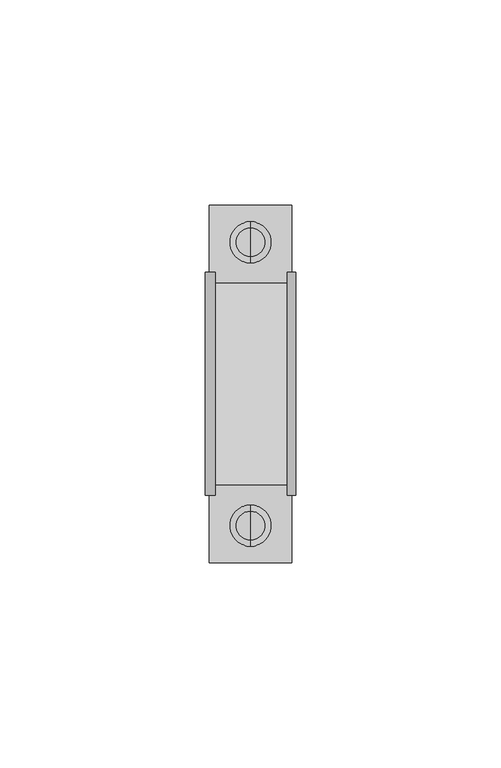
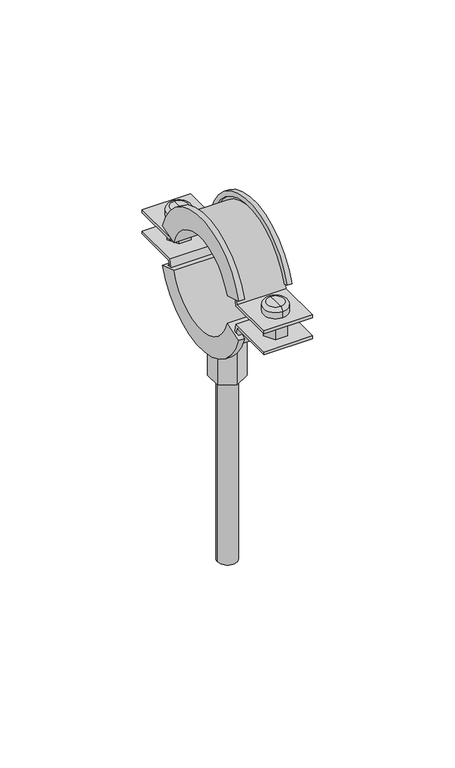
"""IFC4 building model written with IfcOpenShell, lengths in millimetres: pipe fitting geometry, NIRON abrazadera isofonica lisa : Estándard."""

from ifc_helpers import new_model, si_unit, point, frame, origin, origin_2d, place, context, project, spatial, polyline, circle_curve, ellipse_curve, trimmed, segment, composite_curve, outline, extrude, source, transform, mapped, element, save
from ifc_brep_helpers import plane_surface, cylinder_surface, revolved_surface, advanced_brep


def pipe_fitting_90591fc5(model_context):
    return source(origin(), model_context, "Body", "SolidModel", [
        advanced_brep(
        [(0.0, 30.5, -7.8), (0.0, 30.5, -4.8), (0.0, 38.5, -4.8), (0.0, 38.5, -7.8), (0.0, 34.5, -7.8), (0.0, 34.5, -4.8)],
        [
            (0, 1),
            (1, 2, circle_curve(frame((0.0, 34.5, -4.8), z_axis=(0.0, 0.0, -1.0), x_axis=(0.0, 1.0, 0.0)), 4.0)),
            (2, 3),
            (3, 0, circle_curve(frame((0.0, 34.5, -7.8), z_axis=(0.0, 0.0, 1.0), x_axis=(0.0, 1.0, 0.0)), 4.0)),
            (2, 1, circle_curve(frame((0.0, 34.5, -4.8), z_axis=(0.0, 0.0, -1.0), x_axis=(0.0, 1.0, 0.0)), 4.0)),
            (0, 3, circle_curve(frame((0.0, 34.5, -7.8), z_axis=(0.0, 0.0, 1.0), x_axis=(0.0, 1.0, 0.0)), 4.0)),
            (4, 0),
            (3, 4),
            (1, 5),
            (5, 2),
        ],
        [
            cylinder_surface(frame((0.0, 34.5, -110.5332781), z_axis=(0.0, 0.0, -1.0), x_axis=(0.0, 1.0, 0.0)), 4.0),
            plane_surface(frame((0.0, 34.5, -7.8), z_axis=(0.0, 0.0, -1.0), x_axis=(0.0, 1.0, 0.0))),
            plane_surface(frame((0.0, 34.5, -4.8), z_axis=(0.0, 0.0, 1.0), x_axis=(0.0, 1.0, 0.0))),
        ],
        [
            (0, [[1, 2, 3, 4]]),
            (0, [[-3, 5, -1, 6]]),
            (1, [[7, -4, 8]]),
            (1, [[-8, -6, -7]]),
            (2, [[9, 10, -2]]),
            (2, [[-10, -9, -5]]),
        ],
    ),
        advanced_brep(
        [(0.0, 34.5, 4.8), (0.0, 29.5, 4.8), (0.0, 39.5, 4.8), (0.0, 29.5, 7.3), (0.0, 39.5, 7.3), (0.0, 31.0, 8.8), (0.0, 34.5, 8.8), (0.0, 38.0, 8.8)],
        [
            (0, 1),
            (1, 2, circle_curve(frame((0.0, 34.5, 4.8), z_axis=(0.0, 0.0, -1.0), x_axis=(0.0, 1.0, 0.0)), 5.0)),
            (2, 0),
            (2, 1, circle_curve(frame((0.0, 34.5, 4.8), z_axis=(0.0, 0.0, -1.0), x_axis=(0.0, 1.0, 0.0)), 5.0)),
            (1, 3),
            (3, 4, circle_curve(frame((0.0, 34.5, 7.3), z_axis=(0.0, 0.0, -1.0), x_axis=(0.0, 1.0, 0.0)), 5.0)),
            (4, 2),
            (4, 3, circle_curve(frame((0.0, 34.5, 7.3), z_axis=(0.0, 0.0, -1.0), x_axis=(0.0, 1.0, 0.0)), 5.0)),
            (5, 6),
            (6, 7),
            (7, 5, circle_curve(frame((0.0, 34.5, 8.8), z_axis=(0.0, 0.0, 1.0), x_axis=(0.0, 1.0, 0.0)), 3.5)),
            (5, 7, circle_curve(frame((0.0, 34.5, 8.8), z_axis=(0.0, 0.0, 1.0), x_axis=(0.0, 1.0, 0.0)), 3.5)),
            (3, 5, circle_curve(frame((0.0, 31.0, 7.3), z_axis=(-1.0, 0.0, 0.0), x_axis=(0.0, 1.0, 0.0)), 1.5)),
            (7, 4, circle_curve(frame((0.0, 38.0, 7.3), z_axis=(-1.0, 0.0, 0.0), x_axis=(0.0, -1.0, 0.0)), 1.5)),
        ],
        [
            plane_surface(frame((0.0, 34.5, 4.8), z_axis=(0.0, 0.0, -1.0), x_axis=(0.0, 1.0, 0.0))),
            cylinder_surface(frame((0.0, 34.5, 9.8), z_axis=(0.0, 0.0, -1.0), x_axis=(0.0, 1.0, 0.0)), 5.0),
            plane_surface(frame((0.0, 34.5, 8.8), z_axis=(0.0, 0.0, 1.0), x_axis=(0.0, 1.0, 0.0))),
            revolved_surface(trimmed(ellipse_curve(frame((0.0, 38.0, 7.3), z_axis=(-1.0, 0.0, 0.0), x_axis=(0.0, -1.0, 0.0)), 1.5, 1.5), [point((0.0, 38.0, 8.8))], [point((0.0, 39.5, 7.3))], True, "CARTESIAN"), (0.0, 34.5, 9.8), (0.0, 0.0, -1.0)),
        ],
        [
            (0, [[1, 2, 3]]),
            (0, [[-3, 4, -1]]),
            (1, [[5, 6, 7, -2]]),
            (1, [[-7, 8, -5, -4]]),
            (2, [[9, 10, 11]]),
            (2, [[-10, -9, 12]]),
            (3, [[13, -11, 14, -6]]),
            (3, [[-14, -12, -13, -8]]),
        ],
    ),
        advanced_brep(
        [(0.0, -30.5, -7.4875), (0.0, -38.5, -7.4875), (0.0, -38.5, -4.4875), (0.0, -30.5, -4.4875), (0.0, -34.5, -7.4875), (0.0, -34.5, -4.4875)],
        [
            (0, 1, circle_curve(frame((0.0, -34.5, -7.4875), z_axis=(0.0, 0.0, 1.0), x_axis=(0.0, -1.0, 0.0)), 4.0)),
            (1, 2),
            (2, 3, circle_curve(frame((0.0, -34.5, -4.4875), z_axis=(0.0, 0.0, -1.0), x_axis=(0.0, -1.0, 0.0)), 4.0)),
            (3, 0),
            (1, 0, circle_curve(frame((0.0, -34.5, -7.4875), z_axis=(0.0, 0.0, 1.0), x_axis=(0.0, -1.0, 0.0)), 4.0)),
            (3, 2, circle_curve(frame((0.0, -34.5, -4.4875), z_axis=(0.0, 0.0, -1.0), x_axis=(0.0, -1.0, 0.0)), 4.0)),
            (4, 1),
            (0, 4),
            (2, 5),
            (5, 3),
        ],
        [
            cylinder_surface(frame((0.0, -34.5, -110.2207781), z_axis=(0.0, 0.0, -1.0), x_axis=(0.0, -1.0, 0.0)), 4.0),
            plane_surface(frame((0.0, -34.5, -7.4875), z_axis=(0.0, 0.0, -1.0), x_axis=(0.0, -1.0, 0.0))),
            plane_surface(frame((0.0, -34.5, -4.4875), z_axis=(0.0, 0.0, 1.0), x_axis=(0.0, -1.0, 0.0))),
        ],
        [
            (0, [[1, 2, 3, 4]]),
            (0, [[5, -4, 6, -2]]),
            (1, [[7, -1, 8]]),
            (1, [[-8, -5, -7]]),
            (2, [[-3, 9, 10]]),
            (2, [[-6, -10, -9]]),
        ],
    ),
        advanced_brep(
        [(0.0, -34.5, 5.1125), (0.0, -39.5, 5.1125), (0.0, -29.5, 5.1125), (0.0, -39.5, 7.6125), (0.0, -29.5, 7.6125), (0.0, -31.0, 9.1125), (0.0, -38.0, 9.1125), (0.0, -34.5, 9.1125)],
        [
            (0, 1),
            (1, 2, circle_curve(frame((0.0, -34.5, 5.1125), z_axis=(0.0, 0.0, -1.0), x_axis=(0.0, -1.0, 0.0)), 5.0)),
            (2, 0),
            (2, 1, circle_curve(frame((0.0, -34.5, 5.1125), z_axis=(0.0, 0.0, -1.0), x_axis=(0.0, -1.0, 0.0)), 5.0)),
            (1, 3),
            (3, 4, circle_curve(frame((0.0, -34.5, 7.6125), z_axis=(0.0, 0.0, -1.0), x_axis=(0.0, -1.0, 0.0)), 5.0)),
            (4, 2),
            (4, 3, circle_curve(frame((0.0, -34.5, 7.6125), z_axis=(0.0, 0.0, -1.0), x_axis=(0.0, -1.0, 0.0)), 5.0)),
            (5, 6, circle_curve(frame((0.0, -34.5, 9.1125), z_axis=(0.0, 0.0, 1.0), x_axis=(0.0, -1.0, 0.0)), 3.5)),
            (6, 7),
            (7, 5),
            (6, 5, circle_curve(frame((0.0, -34.5, 9.1125), z_axis=(0.0, 0.0, 1.0), x_axis=(0.0, -1.0, 0.0)), 3.5)),
            (3, 6, circle_curve(frame((0.0, -38.0, 7.6125), z_axis=(-1.0, 0.0, 0.0), x_axis=(0.0, 1.0, 0.0)), 1.5)),
            (5, 4, circle_curve(frame((0.0, -31.0, 7.6125), z_axis=(-1.0, 0.0, 0.0), x_axis=(0.0, -1.0, 0.0)), 1.5)),
        ],
        [
            plane_surface(frame((0.0, -34.5, 5.1125), z_axis=(0.0, 0.0, -1.0), x_axis=(0.0, -1.0, 0.0))),
            cylinder_surface(frame((0.0, -34.5, 10.1125), z_axis=(0.0, 0.0, -1.0), x_axis=(0.0, -1.0, 0.0)), 5.0),
            plane_surface(frame((0.0, -34.5, 9.1125), z_axis=(0.0, 0.0, 1.0), x_axis=(0.0, -1.0, 0.0))),
            revolved_surface(trimmed(ellipse_curve(frame((0.0, -38.0, 7.6125), z_axis=(1.0, 0.0, 0.0), x_axis=(0.0, 1.0, 0.0)), 1.5, 1.5), [point((0.0, -38.0, 9.1125))], [point((0.0, -39.5, 7.6125))], True, "CARTESIAN"), (0.0, -34.5, 10.1125), (0.0, 0.0, -1.0)),
        ],
        [
            (0, [[1, 2, 3]]),
            (0, [[-3, 4, -1]]),
            (1, [[-2, 5, 6, 7]]),
            (1, [[-4, -7, 8, -5]]),
            (2, [[9, 10, 11]]),
            (2, [[12, -11, -10]]),
            (3, [[-6, 13, -9, 14]]),
            (3, [[-8, -14, -12, -13]]),
        ],
    ),
        extrude(outline(polyline([(2.5, 30.169873), (-2.5, 30.169873), (-5.0, 34.5), (-2.5, 38.830127), (2.5, 38.830127), (5.0, 34.5), (2.5, 30.169873)])), frame((0.0, 0.0, -4.0), z_axis=(0.0, 0.0, 1.0), x_axis=(1.0, 0.0, 0.0)), (0.0, 0.0, 1.0), 8.0),
        extrude(outline(polyline([(2.5, -30.169873), (5.0, -34.5), (2.5, -38.830127), (-2.5, -38.830127), (-5.0, -34.5), (-2.5, -30.169873), (2.5, -30.169873)])), frame((0.0, 0.0, -4.0), z_axis=(0.0, 0.0, 1.0), x_axis=(1.0, 0.0, 0.0)), (0.0, 0.0, 1.0), 8.0),
        advanced_brep(
        [(11.0, -19.0934907, 6.0), (11.0, -27.1604905, 8.5151568), (9.0, -27.1604905, 8.5151568), (9.0, -25.2511415, 7.9198534), (10.0, -25.2511415, 7.9198534), (10.0, -23.3417924, 7.32455), (-10.0, -23.3417924, 7.32455), (-10.0, -25.2511415, 7.9198534), (-8.5466338, -25.2511415, 7.9198534), (-8.5466338, -27.1604905, 8.5151568), (-11.0, -27.1604905, 8.5151568), (-11.0, -19.0934907, 6.0), (11.0, 19.0934907, 6.0), (-11.0, 19.0934907, 6.0), (-11.0, 27.1604905, 8.5151568), (-8.5466338, 27.1604905, 8.5151568), (-8.5466338, 25.2511415, 7.9198534), (-10.0, 25.2511415, 7.9198534), (-10.0, 23.3417924, 7.32455), (10.0, 23.3417924, 7.32455), (10.0, 25.2511415, 7.9198534), (9.0, 25.2511415, 7.9198534), (9.0, 27.1604905, 8.5151568), (11.0, 27.1604905, 8.5151568)],
        [
            (0, 1),
            (1, 2),
            (2, 3),
            (3, 4),
            (4, 5),
            (5, 6),
            (6, 7),
            (7, 8),
            (8, 9),
            (9, 10),
            (10, 11),
            (11, 0),
            (12, 13),
            (13, 14),
            (14, 15),
            (15, 16),
            (16, 17),
            (17, 18),
            (18, 19),
            (19, 20),
            (20, 21),
            (21, 22),
            (22, 23),
            (23, 12),
            (12, 0, circle_curve(frame((11.0, 0.0, 0.0469661), z_axis=(1.0, 0.0, 0.0), x_axis=(0.0, -0.9546745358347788, 0.297651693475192)), 20.0)),
            (11, 13, circle_curve(frame((-11.0, 0.0, 0.0469661), z_axis=(-1.0, 0.0, 0.0), x_axis=(0.0, -0.9546745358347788, 0.297651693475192)), 20.0)),
            (10, 14, circle_curve(frame((-11.0, 0.0, 0.0469661), z_axis=(-1.0, 0.0, 0.0), x_axis=(0.0, -0.9546745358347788, 0.297651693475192)), 28.45)),
            (9, 15, circle_curve(frame((-8.5466338, 0.0, 0.0469661), z_axis=(-1.0, 0.0, 0.0), x_axis=(0.0, -0.9546745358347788, 0.297651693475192)), 28.45)),
            (8, 16, circle_curve(frame((-8.5466338, 0.0, 0.0469661), z_axis=(-1.0, 0.0, 0.0), x_axis=(0.0, -0.9546745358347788, 0.297651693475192)), 26.45)),
            (7, 17, circle_curve(frame((-10.0, 0.0, 0.0469661), z_axis=(-1.0, 0.0, 0.0), x_axis=(0.0, -0.9546745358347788, 0.297651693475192)), 26.45)),
            (6, 18, circle_curve(frame((-10.0, 0.0, 0.0469661), z_axis=(-1.0, 0.0, 0.0), x_axis=(0.0, -0.9546745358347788, 0.297651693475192)), 24.45)),
            (5, 19, circle_curve(frame((10.0, 0.0, 0.0469661), z_axis=(-1.0, 0.0, 0.0), x_axis=(0.0, -0.9546745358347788, 0.297651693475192)), 24.45)),
            (4, 20, circle_curve(frame((10.0, 0.0, 0.0469661), z_axis=(-1.0, 0.0, 0.0), x_axis=(0.0, -0.9546745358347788, 0.297651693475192)), 26.45)),
            (3, 21, circle_curve(frame((9.0, 0.0, 0.0469661), z_axis=(-1.0, 0.0, 0.0), x_axis=(0.0, -0.9546745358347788, 0.297651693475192)), 26.45)),
            (2, 22, circle_curve(frame((9.0, 0.0, 0.0469661), z_axis=(-1.0, 0.0, 0.0), x_axis=(0.0, -0.9546745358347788, 0.297651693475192)), 28.45)),
            (1, 23, circle_curve(frame((11.0, 0.0, 0.0469661), z_axis=(-1.0, 0.0, 0.0), x_axis=(0.0, -0.9546745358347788, 0.297651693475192)), 28.45)),
        ],
        [
            plane_surface(frame((0.0, -19.0934907, 6.0), z_axis=(0.0, -0.297651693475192, -0.9546745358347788), x_axis=(1.0, 0.0, 0.0))),
            plane_surface(frame((0.0, 19.0934907, 6.0), z_axis=(0.0, 0.29765169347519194, -0.9546745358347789), x_axis=(1.0, 0.0, 0.0))),
            revolved_surface(polyline([(-11.0, -19.093490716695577, 5.99999996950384), (11.0, -19.093490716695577, 5.99999996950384)]), (0.0, 0.0, 0.0469661), (-1.0, 0.0, 0.0)),
            plane_surface(frame((-11.0, 0.0, 0.0469661), z_axis=(-1.0, 0.0, 0.0), x_axis=(0.0, -0.9546745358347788, 0.297651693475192))),
            cylinder_surface(frame((0.0, 0.0, 0.0469661), z_axis=(-1.0, 0.0, 0.0), x_axis=(0.0, -0.9546745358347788, 0.297651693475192)), 28.45),
            plane_surface(frame((-8.5466338, 0.0, 0.0469661), z_axis=(1.0, 0.0, 0.0), x_axis=(0.0, -0.9546745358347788, 0.297651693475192))),
            revolved_surface(polyline([(-10.0, -25.251141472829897, 7.919853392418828), (-8.5466338, -25.251141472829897, 7.919853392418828)]), (0.0, 0.0, 0.0469661), (-1.0, 0.0, 0.0)),
            plane_surface(frame((-10.0, 0.0, 0.0469661), z_axis=(1.0, 0.0, 0.0), x_axis=(0.0, -0.9546745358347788, 0.297651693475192))),
            cylinder_surface(frame((0.0, 0.0, 0.0469661), z_axis=(-1.0, 0.0, 0.0), x_axis=(0.0, -0.9546745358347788, 0.297651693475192)), 24.45),
            plane_surface(frame((10.0, 0.0, 0.0469661), z_axis=(-1.0, 0.0, 0.0), x_axis=(0.0, -0.9546745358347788, 0.297651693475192))),
            revolved_surface(polyline([(9.0, -25.251141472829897, 7.919853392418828), (10.0, -25.251141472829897, 7.919853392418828)]), (0.0, 0.0, 0.0469661), (-1.0, 0.0, 0.0)),
            plane_surface(frame((9.0, 0.0, 0.0469661), z_axis=(-1.0, 0.0, 0.0), x_axis=(0.0, -0.9546745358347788, 0.297651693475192))),
            plane_surface(frame((11.0, 0.0, 0.0469661), z_axis=(1.0, 0.0, 0.0), x_axis=(0.0, -0.9546745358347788, 0.297651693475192))),
        ],
        [
            (0, [[1, 2, 3, 4, 5, 6, 7, 8, 9, 10, 11, 12]]),
            (1, [[13, 14, 15, 16, 17, 18, 19, 20, 21, 22, 23, 24]]),
            (2, [[25, -12, 26, -13]]),
            (3, [[-26, -11, 27, -14]]),
            (4, [[-27, -10, 28, -15]]),
            (5, [[-28, -9, 29, -16]]),
            (6, [[-29, -8, 30, -17]]),
            (7, [[-30, -7, 31, -18]]),
            (8, [[-31, -6, 32, -19]]),
            (9, [[-32, -5, 33, -20]]),
            (10, [[-33, -4, 34, -21]]),
            (11, [[-34, -3, 35, -22]]),
            (4, [[-35, -2, 36, -23]]),
            (12, [[-36, -1, -25, -24]]),
        ],
    ),
        extrude(outline(composite_curve([segment(trimmed(circle_curve(origin_2d(), 24.0), [point((-23.6643191, -4.0))], [point((23.6643191, -4.0))], True, "CARTESIAN"), True, "CONTINUOUS"), segment(polyline([(23.6643191, -4.0), (43.5, -4.0), (43.5, -5.25), (24.6981781, -5.25)]), True, "CONTINUOUS"), segment(trimmed(circle_curve(origin_2d(), 25.25), [point((24.6981781, -5.25))], [point((-24.6981781, -5.25))], False, "CARTESIAN"), True, "CONTINUOUS"), segment(polyline([(-24.6981781, -5.25), (-43.5, -5.25), (-43.5, -4.0), (-23.6643191, -4.0)]), True, "CONTINUOUS")], self_intersect=False)), frame((-10.0, 0.0, 0.0), z_axis=(1.0, 0.0, 0.0), x_axis=(0.0, 1.0, 0.0)), (0.0, 0.0, 1.0), 20.0),
        advanced_brep(
        [(11.0, -19.078784, -6.0), (-11.0, -19.078784, -6.0), (-11.0, -27.1395703, -8.535), (-8.5466338, -27.1395703, -8.535), (-8.5466338, -25.2316919, -7.935), (-10.0, -25.2316919, -7.935), (-10.0, -23.3238135, -7.335), (10.0, -23.3238135, -7.335), (10.0, -25.2316919, -7.935), (9.0, -25.2316919, -7.935), (9.0, -27.1395703, -8.535), (11.0, -27.1395703, -8.535), (11.0, 19.078784, -6.0), (11.0, 27.1395703, -8.535), (9.0, 27.1395703, -8.535), (9.0, 25.2316919, -7.935), (10.0, 25.2316919, -7.935), (10.0, 23.3238135, -7.335), (-10.0, 23.3238135, -7.335), (-10.0, 25.2316919, -7.935), (-8.5466338, 25.2316919, -7.935), (-8.5466338, 27.1395703, -8.535), (-11.0, 27.1395703, -8.535), (-11.0, 19.078784, -6.0)],
        [
            (0, 1),
            (1, 2),
            (2, 3),
            (3, 4),
            (4, 5),
            (5, 6),
            (6, 7),
            (7, 8),
            (8, 9),
            (9, 10),
            (10, 11),
            (11, 0),
            (12, 13),
            (13, 14),
            (14, 15),
            (15, 16),
            (16, 17),
            (17, 18),
            (18, 19),
            (19, 20),
            (20, 21),
            (21, 22),
            (22, 23),
            (23, 12),
            (23, 1, circle_curve(frame((-11.0, 0.0, 0.0), z_axis=(-1.0, 0.0, 0.0), x_axis=(0.0, -0.9539392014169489, -0.2999999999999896)), 20.0)),
            (0, 12, circle_curve(frame((11.0, 0.0, 0.0), z_axis=(1.0, 0.0, 0.0), x_axis=(0.0, -0.9539392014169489, -0.2999999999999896)), 20.0)),
            (22, 2, circle_curve(frame((-11.0, 0.0, 0.0), z_axis=(-1.0, 0.0, 0.0), x_axis=(0.0, -0.9539392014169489, -0.2999999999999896)), 28.45)),
            (21, 3, circle_curve(frame((-8.5466338, 0.0, 0.0), z_axis=(-1.0, 0.0, 0.0), x_axis=(0.0, -0.9539392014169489, -0.2999999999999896)), 28.45)),
            (20, 4, circle_curve(frame((-8.5466338, 0.0, 0.0), z_axis=(-1.0, 0.0, 0.0), x_axis=(0.0, -0.9539392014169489, -0.2999999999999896)), 26.45)),
            (19, 5, circle_curve(frame((-10.0, 0.0, 0.0), z_axis=(-1.0, 0.0, 0.0), x_axis=(0.0, -0.9539392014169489, -0.2999999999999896)), 26.45)),
            (18, 6, circle_curve(frame((-10.0, 0.0, 0.0), z_axis=(-1.0, 0.0, 0.0), x_axis=(0.0, -0.9539392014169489, -0.2999999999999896)), 24.45)),
            (17, 7, circle_curve(frame((10.0, 0.0, 0.0), z_axis=(-1.0, 0.0, 0.0), x_axis=(0.0, -0.9539392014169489, -0.2999999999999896)), 24.45)),
            (16, 8, circle_curve(frame((10.0, 0.0, 0.0), z_axis=(-1.0, 0.0, 0.0), x_axis=(0.0, -0.9539392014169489, -0.2999999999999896)), 26.45)),
            (15, 9, circle_curve(frame((9.0, 0.0, 0.0), z_axis=(-1.0, 0.0, 0.0), x_axis=(0.0, -0.9539392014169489, -0.2999999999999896)), 26.45)),
            (14, 10, circle_curve(frame((9.0, 0.0, 0.0), z_axis=(-1.0, 0.0, 0.0), x_axis=(0.0, -0.9539392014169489, -0.2999999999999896)), 28.45)),
            (13, 11, circle_curve(frame((11.0, 0.0, 0.0), z_axis=(-1.0, 0.0, 0.0), x_axis=(0.0, -0.9539392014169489, -0.2999999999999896)), 28.45)),
        ],
        [
            plane_surface(frame((0.0, -19.078784, -6.0), z_axis=(0.0, -0.29999999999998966, 0.953939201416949), x_axis=(1.0, 0.0, 0.0))),
            plane_surface(frame((0.0, 19.078784, -6.0), z_axis=(0.0, 0.2999999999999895, 0.953939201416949), x_axis=(1.0, 0.0, 0.0))),
            revolved_surface(polyline([(11.0, -19.078784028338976, -5.999999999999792), (-11.0, -19.078784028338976, -5.999999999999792)]), (0.0, 0.0, 0.0), (1.0, 0.0, 0.0)),
            plane_surface(frame((-11.0, 0.0, 0.0), z_axis=(-1.0000000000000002, 0.0, 0.0), x_axis=(0.0, -0.953939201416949, -0.29999999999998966))),
            cylinder_surface(frame((0.0, 0.0, 0.0), z_axis=(1.0, 0.0, 0.0), x_axis=(0.0, -0.9539392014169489, -0.2999999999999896)), 28.45),
            plane_surface(frame((-8.5466338, 0.0, 0.0), z_axis=(1.0000000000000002, 0.0, 0.0), x_axis=(0.0, -0.953939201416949, -0.29999999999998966))),
            revolved_surface(polyline([(-8.5466338, -25.231691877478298, -7.934999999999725), (-10.0, -25.231691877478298, -7.934999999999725)]), (0.0, 0.0, 0.0), (1.0, 0.0, 0.0)),
            plane_surface(frame((-10.0, 0.0, 0.0), z_axis=(1.0000000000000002, 0.0, 0.0), x_axis=(0.0, -0.953939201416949, -0.29999999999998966))),
            cylinder_surface(frame((0.0, 0.0, 0.0), z_axis=(1.0, 0.0, 0.0), x_axis=(0.0, -0.9539392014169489, -0.2999999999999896)), 24.45),
            plane_surface(frame((10.0, 0.0, 0.0), z_axis=(-1.0000000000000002, 0.0, 0.0), x_axis=(0.0, -0.953939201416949, -0.29999999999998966))),
            revolved_surface(polyline([(10.0, -25.231691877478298, -7.934999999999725), (9.0, -25.231691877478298, -7.934999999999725)]), (0.0, 0.0, 0.0), (1.0, 0.0, 0.0)),
            plane_surface(frame((9.0, 0.0, 0.0), z_axis=(-1.0000000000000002, 0.0, 0.0), x_axis=(0.0, -0.953939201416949, -0.29999999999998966))),
            plane_surface(frame((11.0, 0.0, 0.0), z_axis=(1.0000000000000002, 0.0, 0.0), x_axis=(0.0, -0.953939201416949, -0.29999999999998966))),
        ],
        [
            (0, [[1, 2, 3, 4, 5, 6, 7, 8, 9, 10, 11, 12]]),
            (1, [[13, 14, 15, 16, 17, 18, 19, 20, 21, 22, 23, 24]]),
            (2, [[25, -1, 26, -24]]),
            (3, [[27, -2, -25, -23]]),
            (4, [[28, -3, -27, -22]]),
            (5, [[29, -4, -28, -21]]),
            (6, [[30, -5, -29, -20]]),
            (7, [[31, -6, -30, -19]]),
            (8, [[32, -7, -31, -18]]),
            (9, [[33, -8, -32, -17]]),
            (10, [[34, -9, -33, -16]]),
            (11, [[35, -10, -34, -15]]),
            (4, [[36, -11, -35, -14]]),
            (12, [[-26, -12, -36, -13]]),
        ],
    ),
        extrude(outline(composite_curve([segment(trimmed(circle_curve(origin_2d(), 25.25), [point((-24.6981781, 5.25))], [point((24.6981781, 5.25))], False, "CARTESIAN"), True, "CONTINUOUS"), segment(polyline([(24.6981781, 5.25), (43.5, 5.25), (43.5, 4.0), (23.6643191, 4.0)]), True, "CONTINUOUS"), segment(trimmed(circle_curve(origin_2d(), 24.0), [point((23.6643191, 4.0))], [point((-23.6643191, 4.0))], True, "CARTESIAN"), True, "CONTINUOUS"), segment(polyline([(-23.6643191, 4.0), (-43.5, 4.0), (-43.5, 5.25), (-24.6981781, 5.25)]), True, "CONTINUOUS")], self_intersect=False)), frame((-10.0, 0.0, 0.0), z_axis=(1.0, 0.0, 0.0), x_axis=(0.0, 1.0, 0.0)), (0.0, 0.0, 1.0), 20.0),
        extrude(outline(composite_curve([segment(trimmed(circle_curve(origin_2d(), 4.0), [point((-4.0, 0.0))], [point((4.0, 0.0))], False, "CARTESIAN"), True, "CONTINUOUS"), segment(trimmed(circle_curve(origin_2d(), 4.0), [point((4.0, 0.0))], [point((-4.0, 0.0))], False, "CARTESIAN"), True, "CONTINUOUS")], self_intersect=False)), frame((0.0, 0.0, -124.0), z_axis=(0.0, 0.0, 1.0), x_axis=(1.0, 0.0, 0.0)), (0.0, 0.0, 1.0), 100.0),
        extrude(outline(polyline([(-6.0621778, 3.5), (0.0, 7.0), (6.0621778, 3.5), (6.0621778, -3.5), (0.0, -7.0), (-6.0621778, -3.5), (-6.0621778, 3.5)])), frame((0.0, 0.0, -44.0), z_axis=(0.0, 0.0, 1.0), x_axis=(1.0, 0.0, 0.0)), (0.0, 0.0, 1.0), 20.0),
    ])


if __name__ == "__main__":
    model = new_model("IFC4")
    model_context = context("Model", 3, world=origin())
    ifc_project = project(units=[si_unit("LENGTHUNIT", "METRE", prefix="MILLI")], contexts=[model_context])
    site = spatial("IfcSite", under=ifc_project)
    building = spatial("IfcBuilding", under=site)
    placement = place(None, origin())
    pipe_fitting_shape = pipe_fitting_90591fc5(model_context)
    element("IfcPipeFitting", 1, ObjectType="NIRON abrazadera isofonica lisa : Estándard", at=placement, inside=building, context=model_context, shape_type="MappedRepresentation", body=[
        mapped(pipe_fitting_shape, transform((0.0, 0.0, 0.0), x_axis=(1.0, 0.0, 0.0), y_axis=(0.0, 1.0, 0.0), z_axis=(0.0, 0.0, 1.0))),
    ])
    save(model, "model.ifc")
